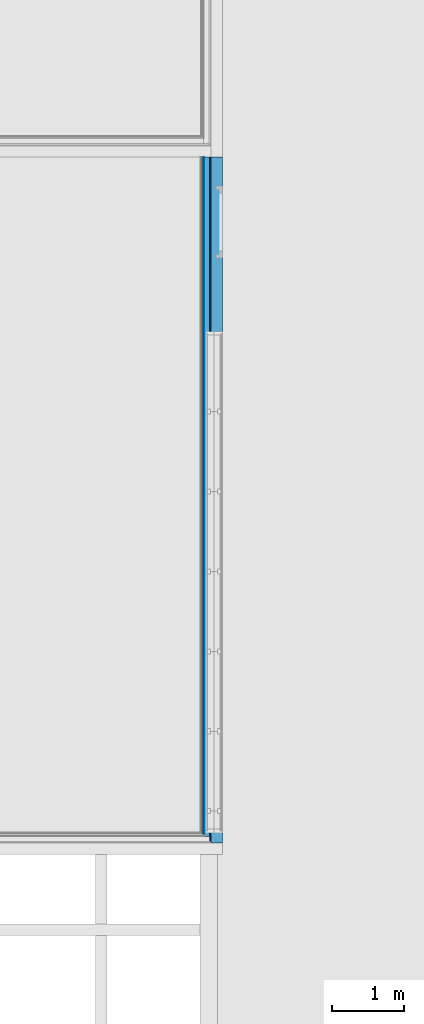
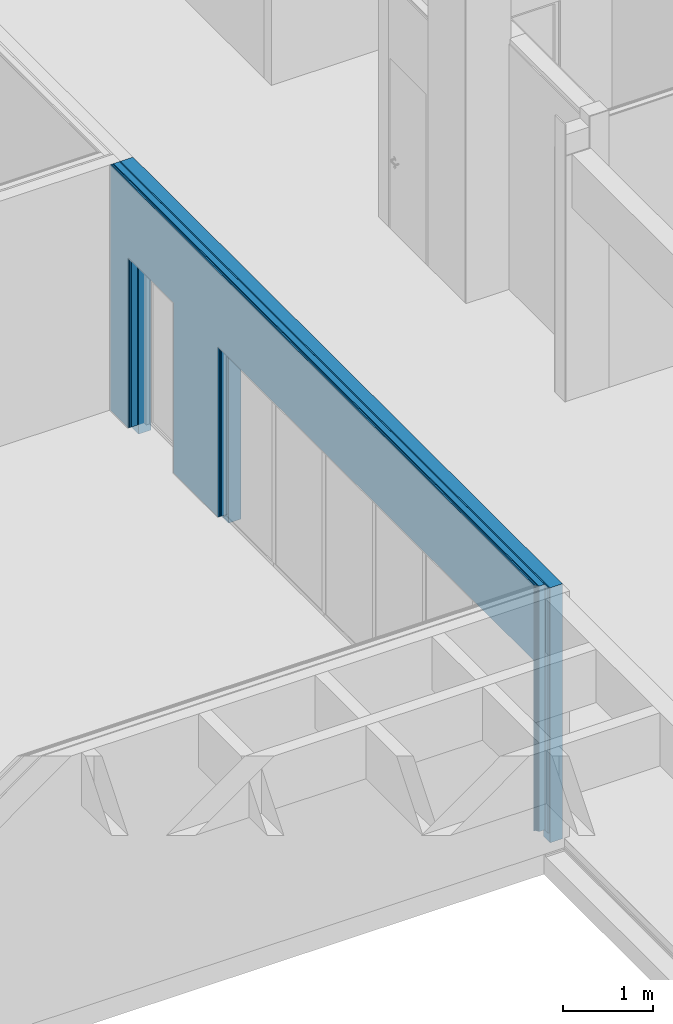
# One storey, part 58 of 139: 6 building element parts, 2 openings, 1 element without a shape of its own.
"""IFC2X3 building model written with IfcOpenShell, lengths in millimetres."""

from ifc_helpers import new_model, entity, si_unit, converted_unit, derived_unit, money_unit, direction, frame, origin_with_axes, place, context, subcontext, project, spatial, faceted_brep, material, type_object, element, aggregate, save


model = new_model("IFC2X3")

# Units and contexts
model_context = context("Model", 3, precision=0.01, world=origin_with_axes(), true_north=direction((0.0, 1.0)))
body_context = subcontext(model_context, "Body", "Model", "MODEL_VIEW")
ifc_project = project(units=[si_unit("LENGTHUNIT", "METRE", prefix="MILLI"), si_unit("AREAUNIT", "SQUARE_METRE"), si_unit("VOLUMEUNIT", "CUBIC_METRE"), converted_unit("PLANEANGLEUNIT", "DEGREE", entity("IfcPlaneAngleMeasure", 0.0174532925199), si_unit("PLANEANGLEUNIT", "RADIAN"), dimensions=[0, 0, 0, 0, 0, 0, 0]), money_unit("EUR"), converted_unit("TIMEUNIT", "Year", entity("IfcTimeMeasure", 31556926.0), si_unit("TIMEUNIT", "SECOND"), dimensions=[0, 0, 1, 0, 0, 0, 0]), si_unit("MASSUNIT", "GRAM", prefix="KILO"), si_unit("THERMODYNAMICTEMPERATUREUNIT", "DEGREE_CELSIUS"), si_unit("LUMINOUSINTENSITYUNIT", "LUMEN"), si_unit("ENERGYUNIT", "JOULE", prefix="MEGA"), derived_unit("THERMALCONDUCTANCEUNIT", [(si_unit("POWERUNIT", "WATT"), 1), (si_unit("LENGTHUNIT", "METRE"), -1), (si_unit("THERMODYNAMICTEMPERATUREUNIT", "KELVIN"), -1)]), derived_unit("SPECIFICHEATCAPACITYUNIT", [(si_unit("ENERGYUNIT", "JOULE"), 1), (si_unit("MASSUNIT", "GRAM", prefix="KILO"), -1), (si_unit("THERMODYNAMICTEMPERATUREUNIT", "KELVIN"), -1)]), derived_unit("MASSDENSITYUNIT", [(si_unit("MASSUNIT", "GRAM", prefix="KILO"), 1), (si_unit("VOLUMEUNIT", "CUBIC_METRE"), -1)])], contexts=[model_context])

# Site, building, storey
site_placement = place(None, origin_with_axes())
site = spatial("IfcSite", under=ifc_project, at=site_placement, Name="Kolde pst 67a", CompositionType="ELEMENT")
building_placement = place(site_placement, origin_with_axes())
building = spatial("IfcBuilding", under=site, at=building_placement, Name="Riigigümnaasium", CompositionType="ELEMENT")
storey_placement = place(building_placement, frame((0.0, 0.0, 4600.0), z_axis=(0.0, 0.0, 1.0), x_axis=(1.0, 0.0, 0.0)))
storey = spatial("IfcBuildingStorey", under=building, at=storey_placement, Name="2. korrus", CompositionType="ELEMENT", Elevation=4600.0)

# Wall, openings, building element parts
wall_type = type_object("IfcWallType", Name="SS-CLT-16/1_vill75+krohv 52 dB 300", PredefinedType="NOTDEFINED")
wall_placement = place(storey_placement, frame((31890.0027331, 48039.9808308, -130.0), z_axis=(0.0, 0.0, 1.0), x_axis=(0.0, -1.0, 0.0)))
wall = element("IfcWall", 1, at=wall_placement, inside=storey, type_object=wall_type, Name="Sisesein")
opening_1_placement = place(wall_placement, frame((5885.00000614, 0.0, 130.0), z_axis=(0.0, 0.0, 1.0), x_axis=(1.0, 0.0, 0.0)))
element("IfcOpeningElement", 2, at=opening_1_placement, cuts=wall, Name="Ava", context=body_context, shape_type="Brep", body=[
    faceted_brep([(3495.00000046, 600.0, 0.0), (3495.00000046, 600.0, 2300.0), (3495.00000046, -300.0, 2300.0), (3495.00000046, -300.0, 0.0), (-3495.00000046, 600.0, 0.0), (-3495.00000046, 600.0, 2300.0), (-3495.00000046, -300.0, 2300.0), (-3495.00000046, -300.0, 0.0)], [[[0, 1, 2, 3]], [[0, 4, 5, 1]], [[1, 5, 6, 2]], [[3, 2, 6, 7]], [[4, 0, 3, 7]], [[5, 4, 7, 6]]]),
])
opening_2_placement = place(wall_placement, frame((900.0, 0.0, 130.0), z_axis=(0.0, 0.0, 1.0), x_axis=(1.0, 0.0, 0.0)))
element("IfcOpeningElement", 3, at=opening_2_placement, cuts=wall, Name="Siseuks", context=body_context, shape_type="Brep", body=[
    faceted_brep([(-500.0, 600.0, 2300.0), (-500.0, 600.0, 0.0), (-500.0, -300.0, 0.0), (-500.0, -300.0, 2300.0), (500.0, 600.0, 2300.0), (500.0, 600.0, 0.0), (500.0, -300.0, 0.0), (500.0, -300.0, 2300.0)], [[[0, 1, 2, 3]], [[0, 4, 5, 1]], [[1, 5, 6, 2]], [[3, 2, 6, 7]], [[4, 0, 3, 7]], [[5, 4, 7, 6]]]),
])
ifc_material_1 = material(Name="_KANDETARIND - CLT ristkihtliimpuit vastavalt EK osale, CLT paigaldusvuugid teibitakse ROTHOBLAAS teibiga")
building_element_part_1_placement = place(wall_placement, origin_with_axes())
building_element_part_1 = element("IfcBuildingElementPart", 4, at=building_element_part_1_placement, material=ifc_material_1, Name="_KANDETARIND - CLT ristkihtliimpuit vastavalt EK osale, CLT paigaldusvuugid teibitakse ROTHOBLAAS teibiga", context=body_context, shape_type="Brep", body=[
    faceted_brep([(1400.0, 0.0, 130.0), (1400.0, 0.0, 2430.0), (400.0, 0.0, 2430.0), (400.0, 0.0, 130.0), (400.0, 0.0, 0.0), (0.0, 0.0, 0.0), (0.0, 0.0, 3450.0), (9520.00000694, 0.0, 3450.0), (9520.00000694, 0.0, 0.0), (9380.0000066, 0.0, 0.0), (9380.0000066, 0.0, 130.0), (9380.0000066, 0.0, 2430.0), (2390.00000568, 0.0, 2430.0), (2390.00000568, 0.0, 130.0), (2390.00000568, 0.0, 0.0), (1400.0, 0.0, 0.0), (1400.0, -160.0, 130.0), (1400.0, -160.0, 2430.0), (400.0, -160.0, 2430.0), (400.0, -160.0, 130.0), (400.0, -160.0, 0.0), (0.0, -160.0, 0.0), (0.0, -160.0, 3450.0), (9520.00000676, -160.0, 3450.0), (9520.00000676, -160.0, 0.0), (9380.0000066, -160.0, 0.0), (9380.0000066, -160.0, 130.0), (9380.0000066, -160.0, 2430.0), (2390.00000568, -160.0, 2430.0), (2390.00000568, -160.0, 130.0), (2390.00000568, -160.0, 0.0), (1400.0, -160.0, 0.0)], [[[0, 1, 2, 3, 4, 5, 6, 7, 8, 9, 10, 11, 12, 13, 14, 15]], [[1, 0, 16, 17]], [[2, 1, 17, 18]], [[3, 2, 18, 19]], [[3, 19, 20, 4]], [[21, 5, 4, 20]], [[5, 21, 22, 6]], [[22, 23, 7, 6]], [[24, 8, 7, 23]], [[8, 24, 25, 9]], [[10, 9, 25, 26]], [[10, 26, 27, 11]], [[11, 27, 28, 12]], [[12, 28, 29, 13]], [[29, 30, 14, 13]], [[14, 30, 31, 15]], [[16, 0, 15, 31]], [[17, 16, 31, 30, 29, 28, 27, 26, 25, 24, 23, 22, 21, 20, 19, 18]]]),
])
ifc_material_2 = material(Name="_ÕHKVAHE")
building_element_part_2_placement = place(wall_placement, origin_with_axes())
building_element_part_2 = element("IfcBuildingElementPart", 5, at=building_element_part_2_placement, material=ifc_material_2, Name="_ÕHKVAHE", context=body_context, shape_type="Brep", body=[
    faceted_brep([(1400.0, -160.0, 130.0), (1400.0, -160.0, 2430.0), (400.0, -160.0, 2430.0), (400.0, -160.0, 130.0), (400.0, -160.0, 127.0), (0.0, -160.0, 127.0), (0.0, -160.0, 3450.0), (9505.00000676, -160.0, 3450.0), (9505.00000676, -160.0, 127.0), (9380.0000066, -160.0, 127.0), (9380.0000066, -160.0, 130.0), (9380.0000066, -160.0, 2430.0), (2390.00000568, -160.0, 2430.0), (2390.00000568, -160.0, 130.0), (2390.00000568, -160.0, 127.0), (1400.0, -160.0, 127.0), (1400.0, -175.0, 130.0), (1400.0, -175.0, 2430.0), (400.0, -175.0, 2430.0), (400.0, -175.0, 130.0), (400.0, -175.0, 127.0), (0.0, -175.0, 127.0), (0.0, -175.0, 3450.0), (9505.00000674, -175.0, 3450.0), (9505.00000674, -175.0, 127.0), (9380.0000066, -175.0, 127.0), (9380.0000066, -175.0, 130.0), (9380.0000066, -175.0, 2430.0), (2390.00000568, -175.0, 2430.0), (2390.00000568, -175.0, 130.0), (2390.00000568, -175.0, 127.0), (1400.0, -175.0, 127.0)], [[[0, 1, 2, 3, 4, 5, 6, 7, 8, 9, 10, 11, 12, 13, 14, 15]], [[1, 0, 16, 17]], [[2, 1, 17, 18]], [[3, 2, 18, 19]], [[3, 19, 20, 4]], [[21, 5, 4, 20]], [[5, 21, 22, 6]], [[22, 23, 7, 6]], [[24, 8, 7, 23]], [[8, 24, 25, 9]], [[10, 9, 25, 26]], [[10, 26, 27, 11]], [[11, 27, 28, 12]], [[12, 28, 29, 13]], [[29, 30, 14, 13]], [[14, 30, 31, 15]], [[16, 0, 15, 31]], [[17, 16, 31, 30, 29, 28, 27, 26, 25, 24, 23, 22, 21, 20, 19, 18]]]),
])
ifc_material_3 = material(Name="_KARKASS - metallkarkass CW 75/50/06 ja UW 75/40/06, samm 600, vahel mineraalvill, helineeldetegur αw = 1.0,  ISOVER ACOUSTIC 75mm või samaväärne")
building_element_part_3_placement = place(wall_placement, origin_with_axes())
building_element_part_3 = element("IfcBuildingElementPart", 6, at=building_element_part_3_placement, material=ifc_material_3, Name="_KARKASS - metallkarkass CW 75/50/06 ja UW 75/40/06, samm 600, vahel mineraalvill, helineeldetegur αw = 1.0,  ISOVER ACOUSTIC 75mm või samaväärne", context=body_context, shape_type="Brep", body=[
    faceted_brep([(1400.0, -175.0, 130.0), (1400.0, -175.0, 2430.0), (400.0, -175.0, 2430.0), (400.0, -175.0, 130.0), (400.0, -175.0, 127.0), (0.0, -175.0, 127.0), (0.0, -175.0, 3450.0), (9430.00000674, -175.0, 3450.0), (9430.00000674, -175.0, 127.0), (9380.0000066, -175.0, 127.0), (9380.0000066, -175.0, 130.0), (9380.0000066, -175.0, 2430.0), (2390.00000568, -175.0, 2430.0), (2390.00000568, -175.0, 130.0), (2390.00000568, -175.0, 127.0), (1400.0, -175.0, 127.0), (1400.0, -250.0, 130.0), (1400.0, -250.0, 2430.0), (400.0, -250.0, 2430.0), (400.0, -250.0, 130.0), (400.0, -250.0, 127.0), (0.0, -250.0, 127.0), (0.0, -250.0, 3450.0), (9430.00000666, -250.0, 3450.0), (9430.00000666, -250.0, 127.0), (9380.0000066, -250.0, 127.0), (9380.0000066, -250.0, 130.0), (9380.0000066, -250.0, 2430.0), (2390.00000568, -250.0, 2430.0), (2390.00000568, -250.0, 130.0), (2390.00000568, -250.0, 127.0), (1400.0, -250.0, 127.0)], [[[0, 1, 2, 3, 4, 5, 6, 7, 8, 9, 10, 11, 12, 13, 14, 15]], [[1, 0, 16, 17]], [[2, 1, 17, 18]], [[3, 2, 18, 19]], [[3, 19, 20, 4]], [[21, 5, 4, 20]], [[5, 21, 22, 6]], [[22, 23, 7, 6]], [[24, 8, 7, 23]], [[8, 24, 25, 9]], [[10, 9, 25, 26]], [[10, 26, 27, 11]], [[11, 27, 28, 12]], [[12, 28, 29, 13]], [[29, 30, 14, 13]], [[14, 30, 31, 15]], [[16, 0, 15, 31]], [[17, 16, 31, 30, 29, 28, 27, 26, 25, 24, 23, 22, 21, 20, 19, 18]]]),
])
ifc_material_4 = material(Name="_PLAATMATERJAL - OSB3 plaat")
building_element_part_4_placement = place(wall_placement, origin_with_axes())
building_element_part_4 = element("IfcBuildingElementPart", 7, at=building_element_part_4_placement, material=ifc_material_4, Name="_PLAATMATERJAL - OSB3 plaat", context=body_context, shape_type="Brep", body=[
    faceted_brep([(1400.0, -250.0, 130.0), (1400.0, -250.0, 2430.0), (400.0, -250.0, 2430.0), (400.0, -250.0, 130.0), (400.0, -250.0, 127.0), (0.0, -250.0, 127.0), (0.0, -250.0, 3450.0), (9420.00000666, -250.0, 3450.0), (9420.00000666, -250.0, 127.0), (9380.0000066, -250.0, 127.0), (9380.0000066, -250.0, 130.0), (9380.0000066, -250.0, 2430.0), (2390.00000568, -250.0, 2430.0), (2390.00000568, -250.0, 130.0), (2390.00000568, -250.0, 127.0), (1400.0, -250.0, 127.0), (1400.0, -260.0, 130.0), (1400.0, -260.0, 2430.0), (400.0, -260.0, 2430.0), (400.0, -260.0, 130.0), (400.0, -260.0, 127.0), (0.0, -260.0, 127.0), (0.0, -260.0, 3450.0), (9420.00000665, -260.0, 3450.0), (9420.00000665, -260.0, 127.0), (9380.0000066, -260.0, 127.0), (9380.0000066, -260.0, 130.0), (9380.0000066, -260.0, 2430.0), (2390.00000568, -260.0, 2430.0), (2390.00000568, -260.0, 130.0), (2390.00000568, -260.0, 127.0), (1400.0, -260.0, 127.0)], [[[0, 1, 2, 3, 4, 5, 6, 7, 8, 9, 10, 11, 12, 13, 14, 15]], [[1, 0, 16, 17]], [[2, 1, 17, 18]], [[3, 2, 18, 19]], [[3, 19, 20, 4]], [[21, 5, 4, 20]], [[5, 21, 22, 6]], [[22, 23, 7, 6]], [[24, 8, 7, 23]], [[8, 24, 25, 9]], [[10, 9, 25, 26]], [[10, 26, 27, 11]], [[11, 27, 28, 12]], [[12, 28, 29, 13]], [[29, 30, 14, 13]], [[14, 30, 31, 15]], [[16, 0, 15, 31]], [[17, 16, 31, 30, 29, 28, 27, 26, 25, 24, 23, 22, 21, 20, 19, 18]]]),
])
ifc_material_5 = material(Name="_PLAATMATERJAL - tuletõkkekipsplaat, Knauf Red GKF või samaväärne")
building_element_part_5_placement = place(wall_placement, origin_with_axes())
building_element_part_5 = element("IfcBuildingElementPart", 8, at=building_element_part_5_placement, material=ifc_material_5, Name="_PLAATMATERJAL - tuletõkkekipsplaat, Knauf Red GKF või samaväärne", context=body_context, shape_type="Brep", body=[
    faceted_brep([(1400.0, -260.0, 130.0), (1400.0, -260.0, 2430.0), (400.0, -260.0, 2430.0), (400.0, -260.0, 130.0), (400.0, -260.0, 127.0), (0.0, -260.0, 127.0), (0.0, -260.0, 3450.0), (9405.00000665, -260.0, 3450.0), (9405.00000665, -260.0, 127.0), (9380.0000066, -260.0, 127.0), (9380.0000066, -260.0, 130.0), (9380.0000066, -260.0, 2430.0), (2390.00000568, -260.0, 2430.0), (2390.00000568, -260.0, 130.0), (2390.00000568, -260.0, 127.0), (1400.0, -260.0, 127.0), (1400.0, -275.0, 130.0), (1400.0, -275.0, 2430.0), (400.0, -275.0, 2430.0), (400.0, -275.0, 130.0), (400.0, -275.0, 127.0), (0.0, -275.0, 127.0), (0.0, -275.0, 3450.0), (9405.00000663, -275.0, 3450.0), (9405.00000663, -275.0, 127.0), (9380.0000066, -275.0, 127.0), (9380.0000066, -275.0, 130.0), (9380.0000066, -275.0, 2430.0), (2390.00000568, -275.0, 2430.0), (2390.00000568, -275.0, 130.0), (2390.00000568, -275.0, 127.0), (1400.0, -275.0, 127.0)], [[[0, 1, 2, 3, 4, 5, 6, 7, 8, 9, 10, 11, 12, 13, 14, 15]], [[1, 0, 16, 17]], [[2, 1, 17, 18]], [[3, 2, 18, 19]], [[3, 19, 20, 4]], [[21, 5, 4, 20]], [[5, 21, 22, 6]], [[22, 23, 7, 6]], [[24, 8, 7, 23]], [[8, 24, 25, 9]], [[10, 9, 25, 26]], [[10, 26, 27, 11]], [[11, 27, 28, 12]], [[12, 28, 29, 13]], [[29, 30, 14, 13]], [[14, 30, 31, 15]], [[16, 0, 15, 31]], [[17, 16, 31, 30, 29, 28, 27, 26, 25, 24, 23, 22, 21, 20, 19, 18]]]),
])
building_element_part_6_placement = place(wall_placement, origin_with_axes())
building_element_part_6 = element("IfcBuildingElementPart", 9, at=building_element_part_6_placement, material=ifc_material_5, Name="_PLAATMATERJAL - tuletõkkekipsplaat, Knauf Red GKF või samaväärne", context=body_context, shape_type="Brep", body=[
    faceted_brep([(1400.0, -275.0, 130.0), (1400.0, -275.0, 2430.0), (400.0, -275.0, 2430.0), (400.0, -275.0, 130.0), (400.0, -275.0, 127.0), (0.0, -275.0, 127.0), (0.0, -275.0, 3450.0), (9390.00000663, -275.0, 3450.0), (9390.00000663, -275.0, 127.0), (9380.0000066, -275.0, 127.0), (9380.0000066, -275.0, 130.0), (9380.0000066, -275.0, 2430.0), (2390.00000568, -275.0, 2430.0), (2390.00000568, -275.0, 130.0), (2390.00000568, -275.0, 127.0), (1400.0, -275.0, 127.0), (1400.0, -290.0, 130.0), (1400.0, -290.0, 2430.0), (400.0, -290.0, 2430.0), (400.0, -290.0, 130.0), (400.0, -290.0, 127.0), (0.0, -290.0, 127.0), (0.0, -290.0, 3450.0), (9390.00000661, -290.0, 3450.0), (9390.00000661, -290.0, 127.0), (9380.0000066, -290.0, 127.0), (9380.0000066, -290.0, 130.0), (9380.0000066, -290.0, 2430.0), (2390.00000568, -290.0, 2430.0), (2390.00000568, -290.0, 130.0), (2390.00000568, -290.0, 127.0), (1400.0, -290.0, 127.0)], [[[0, 1, 2, 3, 4, 5, 6, 7, 8, 9, 10, 11, 12, 13, 14, 15]], [[1, 0, 16, 17]], [[2, 1, 17, 18]], [[3, 2, 18, 19]], [[3, 19, 20, 4]], [[21, 5, 4, 20]], [[5, 21, 22, 6]], [[22, 23, 7, 6]], [[24, 8, 7, 23]], [[8, 24, 25, 9]], [[10, 9, 25, 26]], [[10, 26, 27, 11]], [[11, 27, 28, 12]], [[12, 28, 29, 13]], [[29, 30, 14, 13]], [[14, 30, 31, 15]], [[16, 0, 15, 31]], [[17, 16, 31, 30, 29, 28, 27, 26, 25, 24, 23, 22, 21, 20, 19, 18]]]),
])
aggregate(wall, [building_element_part_1, building_element_part_2, building_element_part_3, building_element_part_4, building_element_part_5, building_element_part_6])

save(model, "model.ifc")
